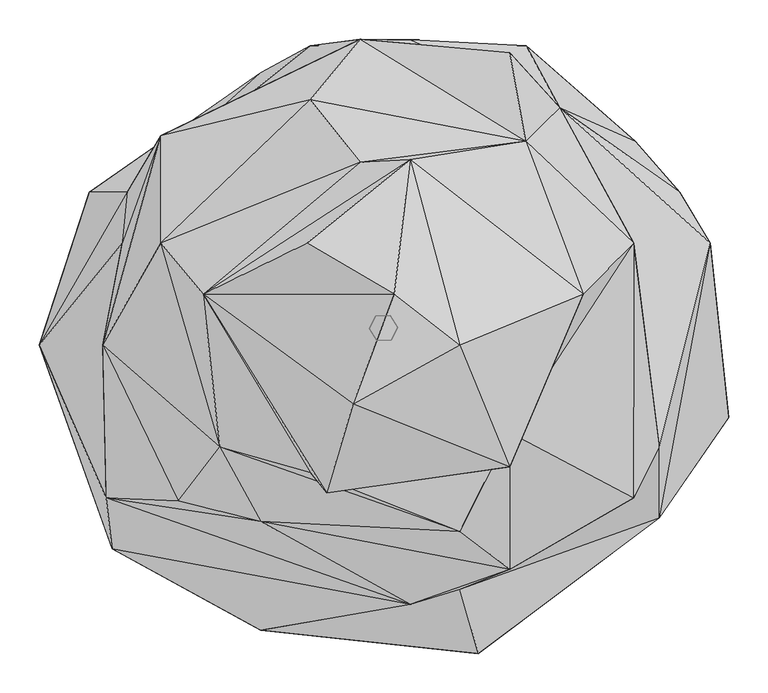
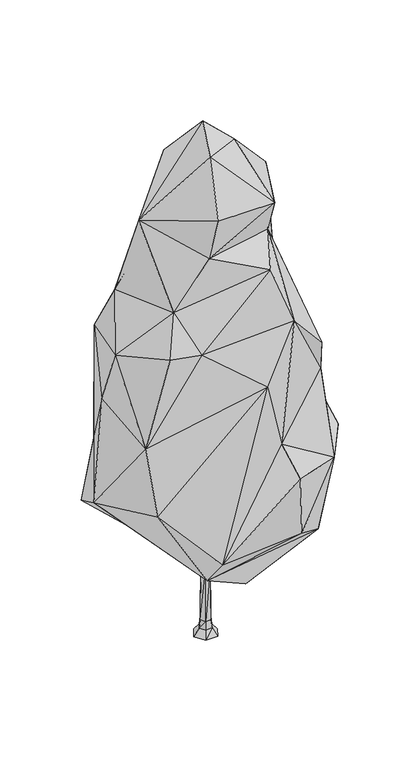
"""IFC4 building model written with IfcOpenShell, lengths in millimetres: geographic element geometry, Enscape AssetDefinition - Coniferous Tree 015 Spruce : Enscape AssetDefinition - Coniferous Tree 015 Spruce 2."""

import ifcopenshell
import ifcopenshell.guid

model = None  # the IFC model being written
_history = None  # IfcOwnerHistory: only IFC2X3 demands one
_inside = {}  # id of a spatial element -> (the spatial element, [elements in it])
_under = {}  # id of a project, library or spatial element -> (it, [spatial elements below it])
_declared = {}  # id of a project -> (the project, [libraries it declares])
_typed = {}  # id of a type object -> (the type object, [elements of that type])
_made_of = {}  # id of a material, layer set ... -> (it, [elements and type objects made of it])


def new_model(schema):
    """Start an empty IFC model of exactly this schema.

    Asked for "IFC4X3", IfcOpenShell would pick the latest addendum, in which some entities
    have other attributes; the version numbers below select the first issue.
    IFC2X3 requires an IfcOwnerHistory on every rooted entity: one is made here for all.
    """
    global model, _history
    if schema == "IFC4X3":
        model = ifcopenshell.file(schema_version=(4, 3, 0, 0))
    else:
        model = ifcopenshell.file(schema=schema)
    _inside.clear()
    _under.clear()
    _declared.clear()
    _typed.clear()
    _made_of.clear()
    _history = None
    if model.schema == "IFC2X3":
        org = make("IfcOrganization", Name="unknown")
        user = make(
            "IfcPersonAndOrganization",
            ThePerson=make("IfcPerson", FamilyName="unknown"),
            TheOrganization=org,
        )
        app = make(
            "IfcApplication",
            ApplicationDeveloper=org,
            Version="unknown",
            ApplicationFullName="unknown",
            ApplicationIdentifier="unknown",
        )
        _history = make(
            "IfcOwnerHistory",
            OwningUser=user,
            OwningApplication=app,
            ChangeAction="ADDED",
            CreationDate=0,
        )
    return model


def make(cls, **values):
    """One entity of the class cls with the attributes given. An attribute that is None is left unset."""
    return model.create_entity(
        cls, **{name: value for name, value in values.items() if value is not None}
    )


def rooted(cls, **values):
    """An entity with a GlobalId (a new one), such as an element, a storey or a relation."""
    return make(cls, GlobalId=ifcopenshell.guid.new(), OwnerHistory=_history, **values)


def si_unit(unit_type, name, prefix=None):
    """IfcSIUnit, for example si_unit("LENGTHUNIT", "METRE", prefix="MILLI")."""
    return make("IfcSIUnit", UnitType=unit_type, Prefix=prefix, Name=name)


def assignment(units):
    """IfcUnitAssignment: the units of a project."""
    return None if units is None else make("IfcUnitAssignment", Units=units)


def point(xyz):
    """IfcCartesianPoint."""
    return None if xyz is None else make("IfcCartesianPoint", Coordinates=xyz)


def direction(xyz):
    """IfcDirection."""
    return None if xyz is None else make("IfcDirection", DirectionRatios=xyz)


def frame(location, z_axis=None, x_axis=None):
    """IfcAxis2Placement3D, a coordinate frame: its origin and axes. An axis left out is left unset."""
    return make(
        "IfcAxis2Placement3D",
        Location=point(location),
        Axis=direction(z_axis),
        RefDirection=direction(x_axis),
    )


def origin():
    """The frame at (0, 0, 0) with its axes left unset."""
    return frame((0.0, 0.0, 0.0))


def place(relative_to, where):
    """IfcLocalPlacement: puts the frame where relative to a parent placement (None: the world)."""
    return make(
        "IfcLocalPlacement", PlacementRelTo=relative_to, RelativePlacement=where
    )


def context(
    kind, dimensions, precision=None, world=None, true_north=None, identifier=None
):
    """IfcGeometricRepresentationContext, for example the 3D "Model" context."""
    return make(
        "IfcGeometricRepresentationContext",
        ContextIdentifier=identifier,
        ContextType=kind,
        CoordinateSpaceDimension=dimensions,
        Precision=precision,
        WorldCoordinateSystem=world,
        TrueNorth=true_north,
    )


def project(units=None, contexts=None):
    """IfcProject with its units and contexts."""
    return rooted(
        "IfcProject",
        Name="project",
        RepresentationContexts=contexts,
        UnitsInContext=assignment(units),
    )


def spatial(cls, under=None, at=None, **own):
    """A site, building, storey or space (cls), placed at a placement, below another one or the project."""
    s = rooted(cls, ObjectPlacement=at, **own)
    if under is not None:
        _under.setdefault(under.id(), (under, []))[1].append(s)
    return s


def point_list(points):
    """IfcCartesianPointList2D or 3D."""
    cls = (
        "IfcCartesianPointList2D" if len(points[0]) == 2 else "IfcCartesianPointList3D"
    )
    return make(cls, CoordList=points)


def triangles(points, corners, closed=None, point_numbers=None):
    """IfcTriangulatedFaceSet: each triangle names its three corners, points numbered from 1."""
    return make(
        "IfcTriangulatedFaceSet",
        Coordinates=point_list(points),
        Closed=closed,
        CoordIndex=corners,
        PnIndex=point_numbers,
    )


def shape(context_of_items, identifier, shape_type, items):
    """IfcShapeRepresentation: the items that make up one representation, for example the "Body"."""
    return make(
        "IfcShapeRepresentation",
        ContextOfItems=context_of_items,
        RepresentationIdentifier=identifier,
        RepresentationType=shape_type,
        Items=items,
    )


def source(mapping_origin, context_of_items, identifier, shape_type, items):
    """IfcRepresentationMap: a shape defined once, which mapped items show again and again."""
    return make(
        "IfcRepresentationMap",
        MappingOrigin=mapping_origin,
        MappedRepresentation=shape(context_of_items, identifier, shape_type, items),
    )


def transform(
    local_origin,
    x_axis=None,
    y_axis=None,
    z_axis=None,
    scale=None,
    scale2=None,
    scale3=None,
    uniform=True,
):
    """IfcCartesianTransformationOperator3D, or its non-uniform kind. x_axis, y_axis, z_axis: its Axis1, 2, 3."""
    if uniform:
        return make(
            "IfcCartesianTransformationOperator3D",
            Axis1=direction(x_axis),
            Axis2=direction(y_axis),
            LocalOrigin=point(local_origin),
            Scale=scale,
            Axis3=direction(z_axis),
        )
    return make(
        "IfcCartesianTransformationOperator3DnonUniform",
        Axis1=direction(x_axis),
        Axis2=direction(y_axis),
        LocalOrigin=point(local_origin),
        Scale=scale,
        Axis3=direction(z_axis),
        Scale2=scale2,
        Scale3=scale3,
    )


def mapped(mapping_source, mapping_target):
    """IfcMappedItem: shows the shape of a source again, moved by a transform."""
    return make(
        "IfcMappedItem", MappingSource=mapping_source, MappingTarget=mapping_target
    )


def made_of(thing, what):
    """Note that an element or type object is made of a material, layer set ...; save() writes the relation."""
    if what is not None:
        _made_of.setdefault(what.id(), (what, []))[1].append(thing)
    return thing


def element(
    cls,
    number,
    at=None,
    inside=None,
    cuts=None,
    type_object=None,
    material=None,
    context=None,
    identifier="Body",
    shape_type=None,
    held_by="IfcProductDefinitionShape",
    body=None,
    shapes=None,
    **own,
):
    """One element of the class cls, such as IfcWall. Its Tag is "e" and its number.

    at: its placement. inside: the storey or other place that contains it. cuts: it is an
    opening in that element (IfcRelVoidsElement). A single representation is given by context,
    identifier, shape_type and body (its items); several are given by shapes. held_by: the class
    of the entity that holds the representations. save() writes the other relations.
    """
    e = rooted(cls, Tag="e%d" % number, ObjectPlacement=at, **own)
    if body is not None:
        shapes = [shape(context, identifier, shape_type, body)]
    if shapes is not None:
        e.Representation = make(held_by, Representations=shapes)
    if inside is not None:
        _inside.setdefault(inside.id(), (inside, []))[1].append(e)
    if cuts is not None:
        rooted(
            "IfcRelVoidsElement", RelatingBuildingElement=cuts, RelatedOpeningElement=e
        )
    if type_object is not None:
        _typed.setdefault(type_object.id(), (type_object, []))[1].append(e)
    return made_of(e, material)


def aggregate(whole, parts):
    """IfcRelAggregates: a whole, such as a stair, and the parts it consists of."""
    return rooted("IfcRelAggregates", RelatingObject=whole, RelatedObjects=parts)


def save(model, path):
    """Write the relations noted so far, then the file.

    IfcRelAggregates (storeys below a building ...), IfcRelContainedInSpatialStructure (elements
    in a storey), IfcRelDefinesByType, IfcRelAssociatesMaterial and IfcRelDeclares: one each for
    every whole, place, type object, material and project.
    """
    for whole, parts in _under.values():
        aggregate(whole, parts)
    for where, things in _inside.values():
        rooted(
            "IfcRelContainedInSpatialStructure",
            RelatedElements=things,
            RelatingStructure=where,
        )
    for kind, things in _typed.values():
        rooted("IfcRelDefinesByType", RelatedObjects=things, RelatingType=kind)
    for what, things in _made_of.values():
        rooted("IfcRelAssociatesMaterial", RelatedObjects=things, RelatingMaterial=what)
    for by, libraries in _declared.values():
        rooted("IfcRelDeclares", RelatingContext=by, RelatedDefinitions=libraries)
    model.write(path)


def geographic_element_da99b235(model_context):
    return source(origin(), model_context, "Body", "Tessellation", [
        triangles([(318.8759577, -216.5866526, 1160.1768585), (161.4134942, -133.372237, 1619.9916698), (161.4134942, -307.669883, 1357.2404114), (98.0355404, -333.170325, 897.4254547), (98.0355404, -259.2296166, 1554.3039642), (351.5472919, -151.7857297, 1005.5533751), (318.6660141, 107.4182889, 1357.2404114), (161.4134942, -177.0430634, 1751.3673717), (181.562991, 237.0202891, 1422.9284077), (254.7580327, 42.6173433, 1751.3673717), (-71.4840451, -210.5166379, 1778.7097435), (98.0355404, -22.1837204, 1937.6734417), (-37.662236, -97.2675277, 1956.0396172), (14.7956221, 42.2459043, 2000.0000153), (-228.6429116, 42.6173433, 1685.6795208), (-92.0982211, -184.1183764, 1619.9916698), (-207.1084702, -151.7857297, 1422.9284077), (-260.1457852, -220.5551785, 1291.9927952), (34.6575775, -352.3348529, 1160.1768585), (-155.476193, -246.3352728, 1291.5525604), (-356.2116875, -22.1837204, 1225.8647095), (-351.7997111, -216.5866526, 963.113233), (-331.2486763, 107.4182889, 963.113233), (-344.2878513, -281.3877118, 727.2548824), (121.1945465, -414.6216396, 800.7373158), (-155.476193, -384.8233858, 530.1914386), (161.4134942, -355.9419002, 530.1914386), (-218.8540287, 107.4182889, 404.6536071), (-155.476193, -281.3877118, 405.463187), (14.5402655, -241.8622355, 309.8901326), (303.8259497, -216.5866526, 413.9329099), (377.325297, 172.2193389, 766.0496801), (439.618188, -114.2075093, 727.719825), (351.5472919, -242.1569123, 700.3618292), (416.2482482, 107.4182889, 897.4254547), (34.6575775, 366.6223892, 525.2395969), (98.0355404, 301.8213119, 423.4775308), (182.2313187, 358.7043769, 749.6319323), (199.261511, -30.7663951, 290.1819242), (320.9247788, 237.0202891, 530.1914386), (-92.0982211, 358.8840898, 831.7375311), (34.6575775, 365.967451, 897.4254547), (224.7913299, 279.9743533, 1094.4889349), (-28.7202628, 366.6223892, 1118.3502691), (161.4134942, 349.7352296, 1291.5525604), (-92.0982211, 289.8056391, 1357.2404114), (-28.7202628, 210.3166502, 1619.9916698), (-282.2319735, 243.9945727, 1160.1768585), (-155.476193, 324.5987188, 595.8792532), (-324.879334, 172.2193389, 766.0496801), (-282.2319735, 107.4182889, 1385.9255791), (34.6575775, 213.3996197, 1751.3673717), (-96.1737263, 107.4182889, 1882.743219), (-436.7096809, -22.1837204, 661.5671041), (-373.2204967, 172.2193389, 530.1914386), (13.3241958, -21.3328957, -0.8883445), (46.0495375, 0.0955614, -27.9277239), (10.4263917, 17.0032477, 30.1419056), (25.242777, 0.0001214, -0.8883445), (23.8102041, -39.3042597, -27.9277239), (-11.1100118, -21.677499, -0.8883445), (-21.4306437, -39.7444309, -27.9277239), (11.0233154, -17.3477295, 30.1419056), (20.6411388, 0.0001214, 30.1419056), (19.0873842, 0.3046551, 242.6227087), (10.7051832, 13.4303212, 439.7200713), (17.6863852, -2.0277954, 439.7200713), (9.3856576, 15.8098828, 242.6227087), (-6.1725128, 15.1135124, 439.7200713), (-17.4701273, -0.9938627, 242.6227087), (-8.8930368, 15.1606264, 242.6227087), (-9.4061778, 16.6585228, 30.1419056), (-16.0691261, 1.3385879, 439.7200713), (12.7272698, 20.9884127, -0.8883445), (-19.0238785, -0.6892076, 30.1419056), (-7.7685217, -16.4990917, 242.6227087), (-9.0879241, -14.119529, 439.7200713), (-23.6255201, -0.6892076, -0.8883445), (-8.8091325, -17.692334, 30.1419056), (-11.7069378, 20.6436868, -0.8883445), (23.0479005, 39.0552242, -27.9277239), (-22.1930699, 38.615053, -27.9277239), (-44.4322806, -0.784769, -27.9277239), (10.5102948, -15.849832, 242.6227087), (7.7897708, -15.8027202, 439.7200713)], [[62, 61, 83], [85, 77, 76], [67, 85, 84], [76, 84, 85], [84, 76, 79], [61, 78, 83], [78, 61, 79], [83, 78, 82], [81, 74, 57], [78, 80, 82], [80, 74, 81], [82, 80, 81], [79, 75, 78], [75, 79, 76], [80, 78, 75], [77, 73, 70], [76, 70, 75], [70, 76, 77], [75, 72, 80], [72, 75, 70], [74, 80, 72], [72, 58, 74], [73, 69, 71], [70, 71, 72], [71, 70, 73], [58, 72, 71], [69, 66, 68], [71, 68, 58], [68, 71, 69], [66, 67, 65], [84, 65, 67], [65, 68, 66], [65, 84, 63], [63, 79, 61], [79, 63, 84], [68, 65, 64], [63, 64, 65], [64, 58, 68], [56, 61, 62], [64, 63, 56], [60, 56, 62], [61, 56, 63], [59, 56, 60], [74, 59, 57], [58, 64, 59], [57, 59, 60], [56, 59, 64], [59, 74, 58], [55, 49, 28], [54, 55, 28], [14, 53, 15], [53, 52, 15], [14, 52, 53], [15, 47, 51], [15, 52, 47], [51, 47, 46], [51, 46, 48], [23, 50, 54], [48, 50, 23], [55, 54, 50], [50, 49, 55], [50, 41, 49], [48, 44, 50], [44, 41, 50], [48, 46, 44], [47, 9, 46], [9, 45, 44], [47, 52, 9], [46, 9, 44], [44, 45, 43], [9, 43, 45], [44, 42, 41], [44, 43, 42], [42, 43, 38], [41, 42, 36], [41, 36, 49], [28, 49, 36], [42, 38, 36], [36, 37, 28], [28, 37, 39], [39, 37, 40], [38, 43, 40], [36, 40, 37], [40, 36, 38], [43, 35, 32], [43, 32, 40], [33, 32, 35], [35, 34, 33], [31, 32, 33], [33, 34, 31], [31, 39, 40], [32, 31, 40], [30, 28, 39], [31, 30, 39], [30, 31, 29], [29, 28, 30], [54, 28, 29], [34, 27, 31], [27, 29, 31], [34, 25, 27], [34, 4, 25], [26, 27, 25], [27, 26, 29], [4, 26, 25], [26, 24, 29], [24, 54, 29], [19, 26, 4], [19, 24, 26], [19, 22, 24], [22, 54, 24], [22, 23, 54], [21, 48, 23], [51, 48, 21], [21, 23, 22], [18, 21, 22], [22, 20, 18], [19, 20, 22], [18, 20, 17], [17, 15, 51], [17, 21, 18], [17, 51, 21], [5, 17, 20], [5, 16, 17], [16, 15, 17], [2, 16, 5], [16, 11, 15], [11, 13, 15], [13, 14, 15], [14, 12, 52], [12, 14, 13], [8, 13, 11], [8, 12, 13], [8, 16, 2], [8, 11, 16], [10, 8, 2], [52, 12, 10], [52, 10, 9], [8, 10, 12], [9, 10, 7], [10, 2, 7], [9, 7, 43], [43, 6, 35], [35, 6, 34], [43, 7, 6], [6, 4, 34], [7, 1, 6], [2, 1, 7], [3, 19, 4], [3, 20, 19], [1, 3, 6], [2, 5, 3], [3, 4, 6], [3, 5, 20], [3, 1, 2]], closed=False),
    ])


if __name__ == "__main__":
    model = new_model("IFC4")
    model_context = context("Model", 3, world=origin())
    ifc_project = project(units=[si_unit("LENGTHUNIT", "METRE", prefix="MILLI")], contexts=[model_context])
    site = spatial("IfcSite", under=ifc_project)
    building = spatial("IfcBuilding", under=site)
    placement = place(None, origin())
    geographic_element_shape = geographic_element_da99b235(model_context)
    element("IfcGeographicElement", 1, ObjectType="Enscape AssetDefinition - Coniferous Tree 015 Spruce : Enscape AssetDefinition - Coniferous Tree 015 Spruce 2", at=placement, inside=building, context=model_context, shape_type="MappedRepresentation", body=[
        mapped(geographic_element_shape, transform((0.0, 0.0, 0.0), x_axis=(1.0, 0.0, 0.0), y_axis=(0.0, 1.0, 0.0), z_axis=(0.0, 0.0, 1.0))),
    ])
    save(model, "model.ifc")
